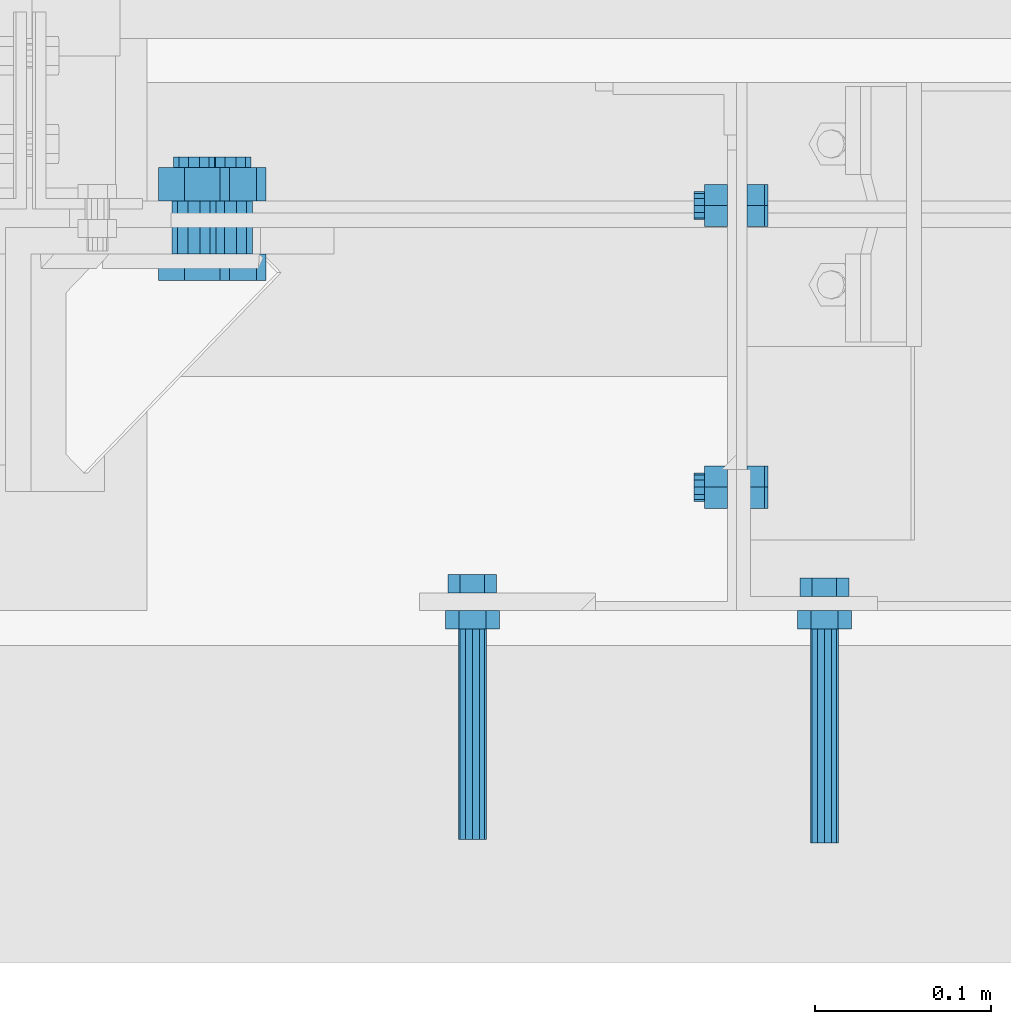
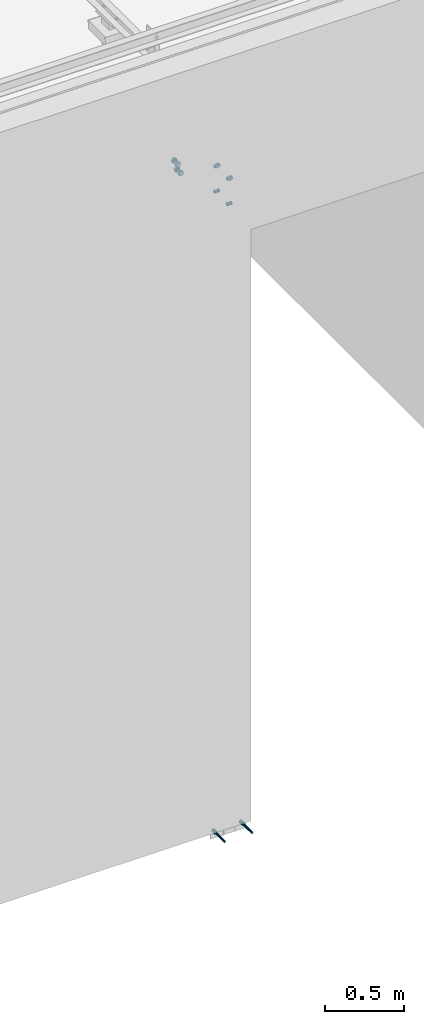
# One storey, part 307 of 3134: 5 mechanical fasteners, 4 elements without a shape of their own.
"""IFC2X3 building model written with IfcOpenShell, lengths in millimetres."""

from ifc_helpers import new_model, si_unit, frame, origin_with_axes, place, context, subcontext, project, spatial, faceted_brep, source, transform, mapped, material, type_object, element, aggregate, save


model = new_model("IFC2X3")

# Units and contexts
model_context = context("Model", 3, precision=1e-05, world=origin_with_axes())
body_context = subcontext(model_context, "Body", "Model", "MODEL_VIEW")
ifc_project = project(units=[si_unit("LENGTHUNIT", "METRE", prefix="MILLI"), si_unit("AREAUNIT", "SQUARE_METRE"), si_unit("VOLUMEUNIT", "CUBIC_METRE"), si_unit("MASSUNIT", "GRAM", prefix="KILO"), si_unit("TIMEUNIT", "SECOND"), si_unit("PLANEANGLEUNIT", "RADIAN"), si_unit("SOLIDANGLEUNIT", "STERADIAN"), si_unit("THERMODYNAMICTEMPERATUREUNIT", "DEGREE_CELSIUS"), si_unit("LUMINOUSINTENSITYUNIT", "LUMEN")], contexts=[model_context])

# Site, building, storey
site_placement = place(None, origin_with_axes())
site = spatial("IfcSite", under=ifc_project, at=site_placement, CompositionType="ELEMENT")
building_placement = place(site_placement, origin_with_axes())
building = spatial("IfcBuilding", under=site, at=building_placement, Name="Undefined", CompositionType="ELEMENT")
storey_placement = place(building_placement, origin_with_axes())
storey = spatial("IfcBuildingStorey", under=building, at=storey_placement, Name="Undefined", CompositionType="ELEMENT", Elevation=0.0)

# Assembly, mechanical fasteners
assembly_1_placement = place(storey_placement, origin_with_axes())
assembly_1 = element("IfcElementAssembly", 1, at=assembly_1_placement, inside=storey, AssemblyPlace="NOTDEFINED", PredefinedType="RIGID_FRAME")
ifc_material_1 = material(Name="HILTI-HSA")
mechanical_fastener_type = type_object("IfcMechanicalFastenerType", Name="Bolt assembly")
shared_shape_1 = source(origin_with_axes(), body_context, "Body", "Brep", [
    faceted_brep([(13.856406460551, -20.56, 0.0), (6.92820323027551, -20.56, 12.0), (-6.92820323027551, -20.56, 12.0), (-13.856406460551, -20.56, 1.69692038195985e-15), (-6.92820323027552, -20.56, -12.0), (6.9282032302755, -20.56, -12.0), (6.9282032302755, -10.0, -12.0), (-6.92820323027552, -10.0, -12.0), (-13.856406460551, -10.0, 1.69692038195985e-15), (-6.92820323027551, -10.0, 12.0), (6.92820323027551, -10.0, 12.0), (13.856406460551, -10.0, 0.0), (8.0, -10.0, 0.0), (6.92820323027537, -10.0, 4.00000000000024), (3.99999999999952, -10.0, 6.92820323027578), (-8.29068785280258e-13, -10.0, 8.0), (-4.00000000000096, -10.0, 6.92820323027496), (-6.9282032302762, -10.0, 3.99999999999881), (-8.0, -10.0, -1.65813757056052e-12), (-6.92820323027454, -10.0, -4.00000000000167), (-3.99999999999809, -10.0, -6.92820323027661), (2.47832457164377e-12, -10.0, -8.0), (4.00000000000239, -10.0, -6.92820323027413), (6.92820323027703, -10.0, -3.99999999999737), (6.92820323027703, 130.0, -3.99999999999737), (4.00000000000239, 130.0, -6.92820323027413), (2.47832457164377e-12, 130.0, -8.0), (-3.99999999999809, 130.0, -6.92820323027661), (-6.92820323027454, 130.0, -4.00000000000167), (-8.0, 130.0, -1.65813757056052e-12), (-6.9282032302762, 130.0, 3.99999999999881), (-4.00000000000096, 130.0, 6.92820323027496), (-8.29068785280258e-13, 130.0, 8.0), (3.99999999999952, 130.0, 6.92820323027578), (6.92820323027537, 130.0, 4.00000000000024), (8.0, 130.0, 0.0), (15.3344231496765, 7.105427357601e-15, 0.0), (7.66721157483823, 7.105427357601e-15, 13.28), (-7.66721157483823, 7.105427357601e-15, 13.28), (-15.3344231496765, 7.105427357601e-15, 1.87792522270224e-15), (-7.66721157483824, 7.105427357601e-15, -13.28), (7.66721157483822, 7.105427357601e-15, -13.28), (7.66721157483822, 10.56, -13.28), (-7.66721157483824, 10.56, -13.28), (-15.3344231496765, 10.56, 1.87792522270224e-15), (-7.66721157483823, 10.56, 13.28), (7.66721157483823, 10.56, 13.28), (15.3344231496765, 10.56, 0.0)], [[[0, 1, 2, 3, 4, 5]], [[6, 7, 8, 9, 10, 11]], [[0, 11, 10, 1]], [[1, 10, 9, 2]], [[2, 9, 8, 3]], [[3, 8, 7, 4]], [[4, 7, 6, 5]], [[5, 6, 11, 0]], [[12, 13, 14, 15, 16, 17, 18, 19, 20, 21, 22, 23]], [[24, 25, 26, 27, 28, 29, 30, 31, 32, 33, 34, 35]], [[12, 35, 34, 13]], [[13, 34, 33, 14]], [[14, 33, 32, 15]], [[15, 32, 31, 16]], [[16, 31, 30, 17]], [[17, 30, 29, 18]], [[18, 29, 28, 19]], [[19, 28, 27, 20]], [[20, 27, 26, 21]], [[21, 26, 25, 22]], [[22, 25, 24, 23]], [[23, 24, 35, 12]], [[36, 37, 38, 39, 40, 41]], [[42, 43, 44, 45, 46, 47]], [[36, 47, 46, 37]], [[37, 46, 45, 38]], [[38, 45, 44, 39]], [[39, 44, 43, 40]], [[40, 43, 42, 41]], [[41, 42, 47, 36]]]),
    faceted_brep([(9.0, -10.0, 0.0), (7.79422863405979, -10.0, 4.50000000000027), (4.49999999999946, -10.0, 7.79422863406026), (-9.3270238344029e-13, -10.0, 9.0), (-4.50000000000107, -10.0, 7.79422863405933), (-7.79422863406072, -10.0, 4.49999999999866), (-9.0, -10.0, -1.86540476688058e-12), (-7.79422863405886, -10.0, -4.50000000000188), (-4.49999999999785, -10.0, -7.79422863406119), (2.78811514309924e-12, -10.0, -9.0), (4.50000000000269, -10.0, -7.7942286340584), (7.79422863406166, -10.0, -4.49999999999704), (7.79422863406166, 0.100000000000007, -4.49999999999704), (4.50000000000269, 0.100000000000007, -7.7942286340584), (2.78811514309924e-12, 0.100000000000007, -9.0), (-4.49999999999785, 0.100000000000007, -7.79422863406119), (-7.79422863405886, 0.100000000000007, -4.50000000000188), (-9.0, 0.100000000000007, -1.86540476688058e-12), (-7.79422863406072, 0.100000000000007, 4.49999999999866), (-4.50000000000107, 0.100000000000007, 7.79422863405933), (-9.3270238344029e-13, 0.100000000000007, 9.0), (4.49999999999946, 0.100000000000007, 7.79422863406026), (7.79422863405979, 0.100000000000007, 4.50000000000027), (9.0, 0.100000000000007, 0.0)], [[[0, 1, 2, 3, 4, 5, 6, 7, 8, 9, 10, 11]], [[12, 13, 14, 15, 16, 17, 18, 19, 20, 21, 22, 23]], [[0, 23, 22, 1]], [[1, 22, 21, 2]], [[2, 21, 20, 3]], [[3, 20, 19, 4]], [[4, 19, 18, 5]], [[5, 18, 17, 6]], [[6, 17, 16, 7]], [[7, 16, 15, 8]], [[8, 15, 14, 9]], [[9, 14, 13, 10]], [[10, 13, 12, 11]], [[11, 12, 23, 0]]]),
])
mechanical_fastener_1_placement = place(assembly_1_placement, frame((70850.0, -225.0, -150.0), z_axis=(0.0, 0.0, -1.0), x_axis=(1.0, 0.0, 0.0)))
mechanical_fastener_1 = element("IfcMechanicalFastener", 2, at=mechanical_fastener_1_placement, type_object=mechanical_fastener_type, material=ifc_material_1, Name="Bolt assembly", NominalDiameter=16.0, NominalLength=140.0, context=body_context, shape_type="MappedRepresentation", body=[
    mapped(shared_shape_1, transform((0.0, 0.0, 0.0))),
])
shared_shape_2 = source(origin_with_axes(), body_context, "Body", "Brep", [
    faceted_brep([(13.856406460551, -18.56, 0.0), (6.92820323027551, -18.56, 12.0), (-6.92820323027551, -18.56, 12.0), (-13.856406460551, -18.56, 1.69692038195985e-15), (-6.92820323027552, -18.56, -12.0), (6.9282032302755, -18.56, -12.0), (6.9282032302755, -7.99999766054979, -12.0), (-6.92820323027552, -7.99999766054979, -12.0), (-13.856406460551, -7.99999766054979, 1.69692038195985e-15), (-6.92820323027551, -7.99999766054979, 12.0), (6.92820323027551, -7.99999766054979, 12.0), (13.856406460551, -7.99999766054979, 0.0), (8.0, -8.0, 0.0), (6.92820323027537, -8.0, 4.00000000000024), (3.99999999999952, -8.0, 6.92820323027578), (-8.29068785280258e-13, -8.0, 8.0), (-4.00000000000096, -8.0, 6.92820323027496), (-6.9282032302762, -8.0, 3.99999999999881), (-8.0, -8.0, -1.65813757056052e-12), (-6.92820323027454, -8.0, -4.00000000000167), (-3.99999999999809, -8.0, -6.92820323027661), (2.47832457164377e-12, -8.0, -8.0), (4.00000000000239, -8.0, -6.92820323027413), (6.92820323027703, -8.0, -3.99999999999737), (6.92820323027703, 132.0, -3.99999999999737), (4.00000000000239, 132.0, -6.92820323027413), (2.47832457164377e-12, 132.0, -8.0), (-3.99999999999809, 132.0, -6.92820323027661), (-6.92820323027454, 132.0, -4.00000000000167), (-8.0, 132.0, -1.65813757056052e-12), (-6.9282032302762, 132.0, 3.99999999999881), (-4.00000000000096, 132.0, 6.92820323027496), (-8.29068785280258e-13, 132.0, 8.0), (3.99999999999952, 132.0, 6.92820323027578), (6.92820323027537, 132.0, 4.00000000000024), (8.0, 132.0, 0.0), (15.3344231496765, 7.105427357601e-15, 0.0), (7.66721157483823, 7.105427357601e-15, 13.28), (-7.66721157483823, 7.105427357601e-15, 13.28), (-15.3344231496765, 7.105427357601e-15, 1.87792522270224e-15), (-7.66721157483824, 7.105427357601e-15, -13.28), (7.66721157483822, 7.105427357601e-15, -13.28), (7.66721157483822, 10.56, -13.28), (-7.66721157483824, 10.56, -13.28), (-15.3344231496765, 10.56, 1.87792522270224e-15), (-7.66721157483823, 10.56, 13.28), (7.66721157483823, 10.56, 13.28), (15.3344231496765, 10.56, 0.0)], [[[0, 1, 2, 3, 4, 5]], [[6, 7, 8, 9, 10, 11]], [[0, 11, 10, 1]], [[1, 10, 9, 2]], [[2, 9, 8, 3]], [[3, 8, 7, 4]], [[4, 7, 6, 5]], [[5, 6, 11, 0]], [[12, 13, 14, 15, 16, 17, 18, 19, 20, 21, 22, 23]], [[24, 25, 26, 27, 28, 29, 30, 31, 32, 33, 34, 35]], [[12, 35, 34, 13]], [[13, 34, 33, 14]], [[14, 33, 32, 15]], [[15, 32, 31, 16]], [[16, 31, 30, 17]], [[17, 30, 29, 18]], [[18, 29, 28, 19]], [[19, 28, 27, 20]], [[20, 27, 26, 21]], [[21, 26, 25, 22]], [[22, 25, 24, 23]], [[23, 24, 35, 12]], [[36, 37, 38, 39, 40, 41]], [[42, 43, 44, 45, 46, 47]], [[36, 47, 46, 37]], [[37, 46, 45, 38]], [[38, 45, 44, 39]], [[39, 44, 43, 40]], [[40, 43, 42, 41]], [[41, 42, 47, 36]]]),
    faceted_brep([(9.0, -8.0, 0.0), (7.79422863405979, -8.0, 4.50000000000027), (4.49999999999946, -8.0, 7.79422863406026), (-9.3270238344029e-13, -8.0, 9.0), (-4.50000000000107, -8.0, 7.79422863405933), (-7.79422863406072, -8.0, 4.49999999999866), (-9.0, -8.0, -1.86540476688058e-12), (-7.79422863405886, -8.0, -4.50000000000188), (-4.49999999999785, -8.0, -7.79422863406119), (2.78811514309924e-12, -8.0, -9.0), (4.50000000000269, -8.0, -7.7942286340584), (7.79422863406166, -8.0, -4.49999999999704), (7.79422863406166, 0.100000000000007, -4.49999999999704), (4.50000000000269, 0.100000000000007, -7.7942286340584), (2.78811514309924e-12, 0.100000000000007, -9.0), (-4.49999999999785, 0.100000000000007, -7.79422863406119), (-7.79422863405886, 0.100000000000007, -4.50000000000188), (-9.0, 0.100000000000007, -1.86540476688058e-12), (-7.79422863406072, 0.100000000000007, 4.49999999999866), (-4.50000000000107, 0.100000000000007, 7.79422863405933), (-9.3270238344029e-13, 0.100000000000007, 9.0), (4.49999999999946, 0.100000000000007, 7.79422863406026), (7.79422863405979, 0.100000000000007, 4.50000000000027), (9.0, 0.100000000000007, 0.0)], [[[0, 1, 2, 3, 4, 5, 6, 7, 8, 9, 10, 11]], [[12, 13, 14, 15, 16, 17, 18, 19, 20, 21, 22, 23]], [[0, 23, 22, 1]], [[1, 22, 21, 2]], [[2, 21, 20, 3]], [[3, 20, 19, 4]], [[4, 19, 18, 5]], [[5, 18, 17, 6]], [[6, 17, 16, 7]], [[7, 16, 15, 8]], [[8, 15, 14, 9]], [[9, 14, 13, 10]], [[10, 13, 12, 11]], [[11, 12, 23, 0]]]),
])
mechanical_fastener_2_placement = place(assembly_1_placement, frame((71050.0, -225.0, -150.0), z_axis=(0.0, 0.0, 1.0), x_axis=(-1.0, 0.0, 0.0)))
mechanical_fastener_2 = element("IfcMechanicalFastener", 3, at=mechanical_fastener_2_placement, type_object=mechanical_fastener_type, material=ifc_material_1, Name="Bolt assembly", NominalDiameter=16.0, NominalLength=140.0, context=body_context, shape_type="MappedRepresentation", body=[
    mapped(shared_shape_2, transform((0.0, 0.0, 0.0))),
])
aggregate(assembly_1, [mechanical_fastener_1, mechanical_fastener_2])

# Assembly, mechanical fastener
assembly_2_placement = place(storey_placement, origin_with_axes())
assembly_2 = element("IfcElementAssembly", 4, at=assembly_2_placement, inside=storey, AssemblyPlace="NOTDEFINED", PredefinedType="RIGID_FRAME")
ifc_material_2 = material(Name="8.8")
shared_shape_3 = source(origin_with_axes(), body_context, "Body", "Brep", [
    faceted_brep([(13.856406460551, -16.0, 0.0), (6.92820323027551, -16.0, 12.0), (-6.92820323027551, -16.0, 12.0), (-13.856406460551, -16.0, 1.69692038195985e-15), (-6.92820323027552, -16.0, -12.0), (6.9282032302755, -16.0, -12.0), (6.9282032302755, -6.0, -12.0), (-6.92820323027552, -6.0, -12.0), (-13.856406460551, -6.0, 1.69692038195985e-15), (-6.92820323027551, -6.0, 12.0), (6.92820323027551, -6.0, 12.0), (13.856406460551, -6.0, 0.0), (8.0, -6.0, 0.0), (6.92820323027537, -6.0, 4.00000000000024), (3.99999999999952, -6.0, 6.92820323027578), (-8.29068785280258e-13, -6.0, 8.0), (-4.00000000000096, -6.0, 6.92820323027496), (-6.9282032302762, -6.0, 3.99999999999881), (-8.0, -6.0, -1.65813757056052e-12), (-6.92820323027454, -6.0, -4.00000000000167), (-3.99999999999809, -6.0, -6.92820323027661), (2.47832457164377e-12, -6.0, -8.0), (4.00000000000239, -6.0, -6.92820323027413), (6.92820323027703, -6.0, -3.99999999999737), (6.92820323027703, 23.9999999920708, -3.99999999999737), (4.00000000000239, 23.9999999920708, -6.92820323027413), (2.47832457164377e-12, 23.9999999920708, -8.0), (-3.99999999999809, 23.9999999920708, -6.92820323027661), (-6.92820323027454, 23.9999999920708, -4.00000000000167), (-8.0, 23.9999999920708, -1.65813757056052e-12), (-6.9282032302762, 23.9999999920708, 3.99999999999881), (-4.00000000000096, 23.9999999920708, 6.92820323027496), (-8.29068785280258e-13, 23.9999999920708, 8.0), (3.99999999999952, 23.9999999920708, 6.92820323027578), (6.92820323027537, 23.9999999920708, 4.00000000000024), (8.0, 23.9999999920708, 0.0), (13.856406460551, 5.00000004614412, 0.0), (6.92820323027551, 5.00000004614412, 12.0), (-6.92820323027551, 5.00000004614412, 12.0), (-13.856406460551, 5.00000004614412, 1.69692038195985e-15), (-6.92820323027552, 5.00000004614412, -12.0), (6.9282032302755, 5.00000004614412, -12.0), (6.9282032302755, 18.000000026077, -12.0), (-6.92820323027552, 18.000000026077, -12.0), (-13.856406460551, 18.000000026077, 1.69692038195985e-15), (-6.92820323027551, 18.000000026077, 12.0), (6.92820323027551, 18.000000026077, 12.0), (13.856406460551, 18.000000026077, 0.0)], [[[0, 1, 2, 3, 4, 5]], [[6, 7, 8, 9, 10, 11]], [[0, 11, 10, 1]], [[1, 10, 9, 2]], [[2, 9, 8, 3]], [[3, 8, 7, 4]], [[4, 7, 6, 5]], [[5, 6, 11, 0]], [[12, 13, 14, 15, 16, 17, 18, 19, 20, 21, 22, 23]], [[24, 25, 26, 27, 28, 29, 30, 31, 32, 33, 34, 35]], [[12, 35, 34, 13]], [[13, 34, 33, 14]], [[14, 33, 32, 15]], [[15, 32, 31, 16]], [[16, 31, 30, 17]], [[17, 30, 29, 18]], [[18, 29, 28, 19]], [[19, 28, 27, 20]], [[20, 27, 26, 21]], [[21, 26, 25, 22]], [[22, 25, 24, 23]], [[23, 24, 35, 12]], [[36, 37, 38, 39, 40, 41]], [[42, 43, 44, 45, 46, 47]], [[36, 47, 46, 37]], [[37, 46, 45, 38]], [[38, 45, 44, 39]], [[39, 44, 43, 40]], [[40, 43, 42, 41]], [[41, 42, 47, 36]]]),
    faceted_brep([(9.0, -0.1, 0.0), (7.79422863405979, -0.1, 4.50000000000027), (4.49999999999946, -0.1, 7.79422863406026), (-9.3270238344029e-13, -0.1, 9.0), (-4.50000000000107, -0.1, 7.79422863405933), (-7.79422863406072, -0.1, 4.49999999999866), (-9.0, -0.1, -1.86540476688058e-12), (-7.79422863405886, -0.1, -4.50000000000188), (-4.49999999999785, -0.1, -7.79422863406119), (2.78811514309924e-12, -0.1, -9.0), (4.50000000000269, -0.1, -7.7942286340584), (7.79422863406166, -0.1, -4.49999999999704), (7.79422863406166, 4.99999989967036, -4.49999999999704), (4.50000000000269, 4.99999989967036, -7.7942286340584), (2.78811514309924e-12, 4.99999989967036, -9.0), (-4.49999999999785, 4.99999989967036, -7.79422863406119), (-7.79422863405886, 4.99999989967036, -4.50000000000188), (-9.0, 4.99999989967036, -1.86540476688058e-12), (-7.79422863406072, 4.99999989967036, 4.49999999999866), (-4.50000000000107, 4.99999989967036, 7.79422863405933), (-9.3270238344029e-13, 4.99999989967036, 9.0), (4.49999999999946, 4.99999989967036, 7.79422863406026), (7.79422863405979, 4.99999989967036, 4.50000000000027), (9.0, 4.99999989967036, 0.0), (9.0, -5.9, 0.0), (7.79422863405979, -5.9, 4.50000000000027), (4.49999999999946, -5.9, 7.79422863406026), (-9.3270238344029e-13, -5.9, 9.0), (-4.50000000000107, -5.9, 7.79422863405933), (-7.79422863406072, -5.9, 4.49999999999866), (-9.0, -5.9, -1.86540476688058e-12), (-7.79422863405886, -5.9, -4.50000000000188), (-4.49999999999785, -5.9, -7.79422863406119), (2.78811514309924e-12, -5.9, -9.0), (4.50000000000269, -5.9, -7.7942286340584), (7.79422863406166, -5.9, -4.49999999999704), (7.79422863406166, 0.100000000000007, -4.49999999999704), (4.50000000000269, 0.100000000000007, -7.7942286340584), (2.78811514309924e-12, 0.100000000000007, -9.0), (-4.49999999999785, 0.100000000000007, -7.79422863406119), (-7.79422863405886, 0.100000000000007, -4.50000000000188), (-9.0, 0.100000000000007, -1.86540476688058e-12), (-7.79422863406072, 0.100000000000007, 4.49999999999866), (-4.50000000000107, 0.100000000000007, 7.79422863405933), (-9.3270238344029e-13, 0.100000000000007, 9.0), (4.49999999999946, 0.100000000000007, 7.79422863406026), (7.79422863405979, 0.100000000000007, 4.50000000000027), (9.0, 0.100000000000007, 0.0)], [[[0, 1, 2, 3, 4, 5, 6, 7, 8, 9, 10, 11]], [[12, 13, 14, 15, 16, 17, 18, 19, 20, 21, 22, 23]], [[0, 23, 22, 1]], [[1, 22, 21, 2]], [[2, 21, 20, 3]], [[3, 20, 19, 4]], [[4, 19, 18, 5]], [[5, 18, 17, 6]], [[6, 17, 16, 7]], [[7, 16, 15, 8]], [[8, 15, 14, 9]], [[9, 14, 13, 10]], [[10, 13, 12, 11]], [[11, 12, 23, 0]], [[24, 25, 26, 27, 28, 29, 30, 31, 32, 33, 34, 35]], [[36, 37, 38, 39, 40, 41, 42, 43, 44, 45, 46, 47]], [[24, 47, 46, 25]], [[25, 46, 45, 26]], [[26, 45, 44, 27]], [[27, 44, 43, 28]], [[28, 43, 42, 29]], [[29, 42, 41, 30]], [[30, 41, 40, 31]], [[31, 40, 39, 32]], [[32, 39, 38, 33]], [[33, 38, 37, 34]], [[34, 37, 36, 35]], [[35, 36, 47, 24]]]),
])
mechanical_fastener_3_placement = place(assembly_2_placement, frame((71000.0, -75.0, 4640.0), z_axis=(0.0, -1.0, 0.0), x_axis=(0.0, 0.0, 1.0)))
mechanical_fastener_3 = element("IfcMechanicalFastener", 5, at=mechanical_fastener_3_placement, type_object=mechanical_fastener_type, material=ifc_material_2, Name="Bolt assembly", NominalDiameter=16.0, NominalLength=30.0, context=body_context, shape_type="MappedRepresentation", body=[
    mapped(shared_shape_3, transform((0.0, -5.32963895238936e-10, -79.9999999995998))),
    mapped(shared_shape_3, transform((0.0, 5.3114490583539e-10, 79.9999999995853))),
])
aggregate(assembly_2, [mechanical_fastener_3])

assembly_3_placement = place(storey_placement, origin_with_axes())
assembly_3 = element("IfcElementAssembly", 6, at=assembly_3_placement, inside=storey, AssemblyPlace="NOTDEFINED", PredefinedType="RIGID_FRAME")
shared_shape_4 = source(origin_with_axes(), body_context, "Body", "Brep", [
    faceted_brep([(13.856406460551, -10.0, 0.0), (6.92820323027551, -10.0, 12.0), (-6.92820323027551, -10.0, 12.0), (-13.856406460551, -10.0, 1.69692038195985e-15), (-6.92820323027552, -10.0, -12.0), (6.9282032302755, -10.0, -12.0), (6.9282032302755, 0.0, -12.0), (-6.92820323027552, 0.0, -12.0), (-13.856406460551, 0.0, 1.69692038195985e-15), (-6.92820323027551, 0.0, 12.0), (6.92820323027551, 0.0, 12.0), (13.856406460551, 0.0, 0.0), (8.0, 0.0, 0.0), (6.92820323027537, 0.0, 4.00000000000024), (3.99999999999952, 0.0, 6.92820323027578), (-8.29068785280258e-13, 0.0, 8.0), (-4.00000000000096, 0.0, 6.92820323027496), (-6.9282032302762, 0.0, 3.99999999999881), (-8.0, 0.0, -1.65813757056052e-12), (-6.92820323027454, 0.0, -4.00000000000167), (-3.99999999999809, 0.0, -6.92820323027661), (2.47832457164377e-12, 0.0, -8.0), (4.00000000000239, 0.0, -6.92820323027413), (6.92820323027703, 0.0, -3.99999999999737), (6.92820323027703, 29.9999969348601, -3.99999999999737), (4.00000000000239, 29.9999969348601, -6.92820323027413), (2.47832457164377e-12, 29.9999969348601, -8.0), (-3.99999999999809, 29.9999969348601, -6.92820323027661), (-6.92820323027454, 29.9999969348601, -4.00000000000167), (-8.0, 29.9999969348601, -1.65813757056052e-12), (-6.9282032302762, 29.9999969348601, 3.99999999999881), (-4.00000000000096, 29.9999969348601, 6.92820323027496), (-8.29068785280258e-13, 29.9999969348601, 8.0), (3.99999999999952, 29.9999969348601, 6.92820323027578), (6.92820323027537, 29.9999969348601, 4.00000000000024), (8.0, 29.9999969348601, 0.0), (13.856406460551, 12.9999996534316, 0.0), (6.92820323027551, 12.9999996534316, 12.0), (-6.92820323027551, 12.9999996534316, 12.0), (-13.856406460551, 12.9999996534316, 1.69692038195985e-15), (-6.92820323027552, 12.9999996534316, -12.0), (6.9282032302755, 12.9999996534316, -12.0), (6.9282032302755, 25.9999999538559, -12.0), (-6.92820323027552, 25.9999999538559, -12.0), (-13.856406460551, 25.9999999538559, 1.69692038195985e-15), (-6.92820323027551, 25.9999999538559, 12.0), (6.92820323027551, 25.9999999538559, 12.0), (13.856406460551, 25.9999999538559, 0.0)], [[[0, 1, 2, 3, 4, 5]], [[6, 7, 8, 9, 10, 11]], [[0, 11, 10, 1]], [[1, 10, 9, 2]], [[2, 9, 8, 3]], [[3, 8, 7, 4]], [[4, 7, 6, 5]], [[5, 6, 11, 0]], [[12, 13, 14, 15, 16, 17, 18, 19, 20, 21, 22, 23]], [[24, 25, 26, 27, 28, 29, 30, 31, 32, 33, 34, 35]], [[12, 35, 34, 13]], [[13, 34, 33, 14]], [[14, 33, 32, 15]], [[15, 32, 31, 16]], [[16, 31, 30, 17]], [[17, 30, 29, 18]], [[18, 29, 28, 19]], [[19, 28, 27, 20]], [[20, 27, 26, 21]], [[21, 26, 25, 22]], [[22, 25, 24, 23]], [[23, 24, 35, 12]], [[36, 37, 38, 39, 40, 41]], [[42, 43, 44, 45, 46, 47]], [[36, 47, 46, 37]], [[37, 46, 45, 38]], [[38, 45, 44, 39]], [[39, 44, 43, 40]], [[40, 43, 42, 41]], [[41, 42, 47, 36]]]),
    faceted_brep([(9.0, 7.9, 0.0), (7.79422863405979, 7.9, 4.50000000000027), (4.49999999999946, 7.9, 7.79422863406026), (-9.3270238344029e-13, 7.9, 9.0), (-4.50000000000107, 7.9, 7.79422863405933), (-7.79422863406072, 7.9, 4.49999999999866), (-9.0, 7.9, -1.86540476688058e-12), (-7.79422863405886, 7.9, -4.50000000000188), (-4.49999999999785, 7.9, -7.79422863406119), (2.78811514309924e-12, 7.9, -9.0), (4.50000000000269, 7.9, -7.7942286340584), (7.79422863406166, 7.9, -4.49999999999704), (7.79422863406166, 12.9999999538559, -4.49999999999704), (4.50000000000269, 12.9999999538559, -7.7942286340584), (2.78811514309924e-12, 12.9999999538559, -9.0), (-4.49999999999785, 12.9999999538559, -7.79422863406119), (-7.79422863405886, 12.9999999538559, -4.50000000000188), (-9.0, 12.9999999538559, -1.86540476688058e-12), (-7.79422863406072, 12.9999999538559, 4.49999999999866), (-4.50000000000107, 12.9999999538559, 7.79422863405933), (-9.3270238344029e-13, 12.9999999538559, 9.0), (4.49999999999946, 12.9999999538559, 7.79422863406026), (7.79422863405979, 12.9999999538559, 4.50000000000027), (9.0, 12.9999999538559, 0.0), (20.0, 0.0999999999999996, 0.0), (19.3149157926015, 0.0999999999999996, 3.44415089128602), (17.3639610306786, 0.0999999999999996, 6.36396103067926), (14.4441508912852, 0.0999999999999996, 8.31491579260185), (-11.0000000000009, 0.0999999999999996, 9.0), (-15.5000000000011, 0.0999999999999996, 7.79422863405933), (-18.7942286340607, 0.0999999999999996, 4.49999999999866), (-20.0, 0.0999999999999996, -1.86540476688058e-12), (-18.7942286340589, 0.0999999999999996, -4.50000000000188), (-15.4999999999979, 0.0999999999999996, -7.79422863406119), (-10.9999999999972, 0.0999999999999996, -9.0), (11.0000000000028, 0.0999999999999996, -9.0), (15.5000000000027, 0.0999999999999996, -7.7942286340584), (18.7942286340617, 0.0999999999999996, -4.49999999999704), (20.0, 8.1, 0.0), (18.7942286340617, 8.1, -4.49999999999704), (15.5000000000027, 8.1, -7.7942286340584), (11.0000000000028, 8.1, -9.0), (-10.9999999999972, 8.1, -9.0), (-15.4999999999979, 8.1, -7.79422863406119), (-18.7942286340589, 8.1, -4.50000000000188), (-20.0, 8.1, -1.86540476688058e-12), (-18.7942286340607, 8.1, 4.49999999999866), (-15.5000000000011, 8.1, 7.79422863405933), (-11.0000000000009, 8.1, 9.0), (14.4441508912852, 8.1, 8.31491579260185), (17.3639610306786, 8.1, 6.36396103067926), (19.3149157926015, 8.1, 3.44415089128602)], [[[0, 1, 2, 3, 4, 5, 6, 7, 8, 9, 10, 11]], [[12, 13, 14, 15, 16, 17, 18, 19, 20, 21, 22, 23]], [[0, 23, 22, 1]], [[1, 22, 21, 2]], [[2, 21, 20, 3]], [[3, 20, 19, 4]], [[4, 19, 18, 5]], [[5, 18, 17, 6]], [[6, 17, 16, 7]], [[7, 16, 15, 8]], [[8, 15, 14, 9]], [[9, 14, 13, 10]], [[10, 13, 12, 11]], [[11, 12, 23, 0]], [[24, 25, 26, 27, 28, 29, 30, 31, 32, 33, 34, 35, 36, 37]], [[38, 39, 40, 41, 42, 43, 44, 45, 46, 47, 48, 49, 50, 51]], [[24, 38, 51, 25]], [[25, 51, 50, 26]], [[26, 50, 49, 27]], [[27, 49, 48, 28]], [[28, 48, 47, 29]], [[29, 47, 46, 30]], [[30, 46, 45, 31]], [[31, 45, 44, 32]], [[32, 44, 43, 33]], [[33, 43, 42, 34]], [[34, 42, 41, 35]], [[35, 41, 40, 36]], [[36, 40, 39, 37]], [[37, 39, 38, 24]]]),
])
mechanical_fastener_4_placement = place(assembly_3_placement, frame((71007.9999999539, -75.0, 4836.4), z_axis=(0.0, -1.0, 0.0), x_axis=(0.0, 0.0, 1.0)))
mechanical_fastener_4 = element("IfcMechanicalFastener", 7, at=mechanical_fastener_4_placement, type_object=mechanical_fastener_type, material=ifc_material_2, Name="Bolt assembly", NominalDiameter=16.0, NominalLength=30.0, context=body_context, shape_type="MappedRepresentation", body=[
    mapped(shared_shape_4, transform((0.0, -5.32963895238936e-10, -79.9999999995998))),
    mapped(shared_shape_4, transform((0.0, 5.3114490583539e-10, 79.9999999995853))),
])
aggregate(assembly_3, [mechanical_fastener_4])

assembly_4_placement = place(storey_placement, origin_with_axes())
assembly_4 = element("IfcElementAssembly", 8, at=assembly_4_placement, inside=storey, Name="300", AssemblyPlace="NOTDEFINED", PredefinedType="RIGID_FRAME")
shared_shape_5 = source(origin_with_axes(), body_context, "Body", "Brep", [
    faceted_brep([(20.7846096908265, -37.5, 0.0), (10.3923048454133, -37.5, 18.0), (-10.3923048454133, -37.5, 18.0), (-20.7846096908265, -37.5, 2.54538057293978e-15), (-10.3923048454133, -37.5, -18.0), (10.3923048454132, -37.5, -18.0), (10.3923048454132, -22.5, -18.0), (-10.3923048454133, -22.5, -18.0), (-20.7846096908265, -22.5, 2.54538057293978e-15), (-10.3923048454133, -22.5, 18.0), (10.3923048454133, -22.5, 18.0), (20.7846096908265, -22.5, 0.0), (12.0, -22.5, 0.0), (10.3923048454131, -22.5, 6.00000000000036), (5.99999999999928, -22.5, 10.3923048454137), (-1.24360317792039e-12, -22.5, 12.0), (-6.00000000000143, -22.5, 10.3923048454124), (-10.3923048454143, -22.5, 5.99999999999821), (-12.0, -22.5, -2.48720635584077e-12), (-10.3923048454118, -22.5, -6.00000000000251), (-5.99999999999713, -22.5, -10.3923048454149), (3.71748685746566e-12, -22.5, -12.0), (6.00000000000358, -22.5, -10.3923048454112), (10.3923048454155, -22.5, -5.99999999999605), (10.3923048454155, 32.5, -5.99999999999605), (6.00000000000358, 32.5, -10.3923048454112), (3.71748685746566e-12, 32.5, -12.0), (-5.99999999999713, 32.5, -10.3923048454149), (-10.3923048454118, 32.5, -6.00000000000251), (-12.0, 32.5, -2.48720635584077e-12), (-10.3923048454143, 32.5, 5.99999999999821), (-6.00000000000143, 32.5, 10.3923048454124), (-1.24360317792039e-12, 32.5, 12.0), (5.99999999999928, 32.5, 10.3923048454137), (10.3923048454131, 32.5, 6.00000000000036), (12.0, 32.5, 0.0), (20.7846096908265, 7.5, 0.0), (10.3923048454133, 7.5, 18.0), (-10.3923048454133, 7.5, 18.0), (-20.7846096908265, 7.5, 2.54538057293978e-15), (-10.3923048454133, 7.5, -18.0), (10.3923048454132, 7.5, -18.0), (10.3923048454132, 26.5, -18.0), (-10.3923048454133, 26.5, -18.0), (-20.7846096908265, 26.5, 2.54538057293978e-15), (-10.3923048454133, 26.5, 18.0), (10.3923048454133, 26.5, 18.0), (20.7846096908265, 26.5, 0.0)], [[[0, 1, 2, 3, 4, 5]], [[6, 7, 8, 9, 10, 11]], [[0, 11, 10, 1]], [[1, 10, 9, 2]], [[2, 9, 8, 3]], [[3, 8, 7, 4]], [[4, 7, 6, 5]], [[5, 6, 11, 0]], [[12, 13, 14, 15, 16, 17, 18, 19, 20, 21, 22, 23]], [[24, 25, 26, 27, 28, 29, 30, 31, 32, 33, 34, 35]], [[12, 35, 34, 13]], [[13, 34, 33, 14]], [[14, 33, 32, 15]], [[15, 32, 31, 16]], [[16, 31, 30, 17]], [[17, 30, 29, 18]], [[18, 29, 28, 19]], [[19, 28, 27, 20]], [[20, 27, 26, 21]], [[21, 26, 25, 22]], [[22, 25, 24, 23]], [[23, 24, 35, 12]], [[36, 37, 38, 39, 40, 41]], [[42, 43, 44, 45, 46, 47]], [[36, 47, 46, 37]], [[37, 46, 45, 38]], [[38, 45, 44, 39]], [[39, 44, 43, 40]], [[40, 43, 42, 41]], [[41, 42, 47, 36]]]),
    faceted_brep([(13.0, -22.4, 0.0), (11.2583302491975, -22.4, 6.50000000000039), (6.49999999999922, -22.4, 11.2583302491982), (-1.34723677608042e-12, -22.4, 13.0), (-6.50000000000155, -22.4, 11.2583302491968), (-11.2583302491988, -22.4, 6.49999999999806), (-13.0, -22.4, -2.69447355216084e-12), (-11.2583302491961, -22.4, -6.50000000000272), (-6.4999999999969, -22.4, -11.2583302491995), (4.02727742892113e-12, -22.4, -13.0), (6.50000000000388, -22.4, -11.2583302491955), (11.2583302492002, -22.4, -6.49999999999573), (11.2583302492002, -7.40000000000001, -6.49999999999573), (6.50000000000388, -7.40000000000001, -11.2583302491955), (4.02727742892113e-12, -7.40000000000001, -13.0), (-6.4999999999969, -7.40000000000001, -11.2583302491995), (-11.2583302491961, -7.40000000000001, -6.50000000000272), (-13.0, -7.40000000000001, -2.69447355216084e-12), (-11.2583302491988, -7.40000000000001, 6.49999999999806), (-6.50000000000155, -7.40000000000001, 11.2583302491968), (-1.34723677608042e-12, -7.40000000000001, 13.0), (6.49999999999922, -7.40000000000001, 11.2583302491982), (11.2583302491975, -7.40000000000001, 6.50000000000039), (13.0, -7.40000000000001, 0.0), (13.0, -7.6, 0.0), (11.2583302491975, -7.6, 6.50000000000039), (6.49999999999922, -7.6, 11.2583302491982), (-1.34723677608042e-12, -7.6, 13.0), (-6.50000000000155, -7.6, 11.2583302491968), (-11.2583302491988, -7.6, 6.49999999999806), (-13.0, -7.6, -2.69447355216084e-12), (-11.2583302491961, -7.6, -6.50000000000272), (-6.4999999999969, -7.6, -11.2583302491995), (4.02727742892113e-12, -7.6, -13.0), (6.50000000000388, -7.6, -11.2583302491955), (11.2583302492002, -7.6, -6.49999999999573), (11.2583302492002, 7.5, -6.49999999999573), (6.50000000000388, 7.5, -11.2583302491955), (4.02727742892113e-12, 7.5, -13.0), (-6.4999999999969, 7.5, -11.2583302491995), (-11.2583302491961, 7.5, -6.50000000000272), (-13.0, 7.5, -2.69447355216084e-12), (-11.2583302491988, 7.5, 6.49999999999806), (-6.50000000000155, 7.5, 11.2583302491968), (-1.34723677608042e-12, 7.5, 13.0), (6.49999999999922, 7.5, 11.2583302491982), (11.2583302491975, 7.5, 6.50000000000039), (13.0, 7.5, 0.0)], [[[0, 1, 2, 3, 4, 5, 6, 7, 8, 9, 10, 11]], [[12, 13, 14, 15, 16, 17, 18, 19, 20, 21, 22, 23]], [[0, 23, 22, 1]], [[1, 22, 21, 2]], [[2, 21, 20, 3]], [[3, 20, 19, 4]], [[4, 19, 18, 5]], [[5, 18, 17, 6]], [[6, 17, 16, 7]], [[7, 16, 15, 8]], [[8, 15, 14, 9]], [[9, 14, 13, 10]], [[10, 13, 12, 11]], [[11, 12, 23, 0]], [[24, 25, 26, 27, 28, 29, 30, 31, 32, 33, 34, 35]], [[36, 37, 38, 39, 40, 41, 42, 43, 44, 45, 46, 47]], [[24, 47, 46, 25]], [[25, 46, 45, 26]], [[26, 45, 44, 27]], [[27, 44, 43, 28]], [[28, 43, 42, 29]], [[29, 42, 41, 30]], [[30, 41, 40, 31]], [[31, 40, 39, 32]], [[32, 39, 38, 33]], [[33, 38, 37, 34]], [[34, 37, 36, 35]], [[35, 36, 47, 24]]]),
])
mechanical_fastener_5_placement = place(assembly_4_placement, frame((70691.8542587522, 0.0, 4977.64175680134), z_axis=(0.965571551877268, 0.0, 0.26013761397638), x_axis=(0.260137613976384, 0.0, -0.965571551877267)))
mechanical_fastener_5 = element("IfcMechanicalFastener", 9, at=mechanical_fastener_5_placement, type_object=mechanical_fastener_type, material=ifc_material_2, Name="Bolt assembly", NominalDiameter=24.0, NominalLength=55.0, context=body_context, shape_type="MappedRepresentation", body=[
    mapped(shared_shape_5, transform((0.0, 0.0, 0.0))),
    mapped(shared_shape_5, transform((80.0, 0.0, 0.0))),
])
aggregate(assembly_4, [mechanical_fastener_5])

save(model, "model.ifc")
